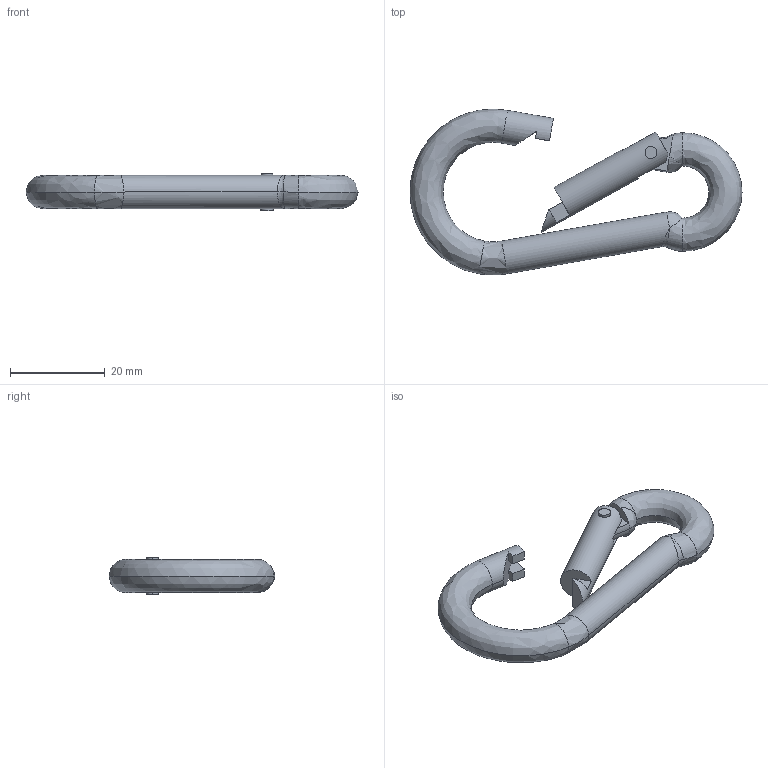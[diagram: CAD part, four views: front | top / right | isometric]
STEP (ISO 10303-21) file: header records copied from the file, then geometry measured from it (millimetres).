
FILE_DESCRIPTION (( 'STEP AP203' ), '1' );
FILE_NAME ('EB-921S-3.STEP', '2013-08-09T02:18:14', ( 'SDS' ), ( 'SDS' ), 'SwSTEP 2.0', 'SolidWorks 2002296', '' );
FILE_SCHEMA (( 'CONFIG_CONTROL_DESIGN' ));
Length unit declared in the file: millimetre
Products named in the file (3): EB-921S-3; EB-921S-31_蹬怮椔; EB-921S-32_蹬怮椔
Assembly tree (2 placements, depth 2):
  EB-921S-3
    EB-921S-31_蹬怮椔
    EB-921S-32_蹬怮椔
Bounding box: 70 x 34.97 x 8 mm (x, y, z)
Volume: 5817.3 mm3; surface area: 3870.2 mm2
Topology: 2 solids, 2 shells, 73 faces, 196 edges, 117 vertices
Faces by surface type: plane 31, cylinder 21, bspline 18, cone 3
Entity records: 3353 total; most frequent: CARTESIAN_POINT 1384, ORIENTED_EDGE 372, DIRECTION 333, EDGE_CURVE 186, AXIS2_PLACEMENT_3D 129, VERTEX_POINT 117, EDGE_LOOP 81, LINE 75
